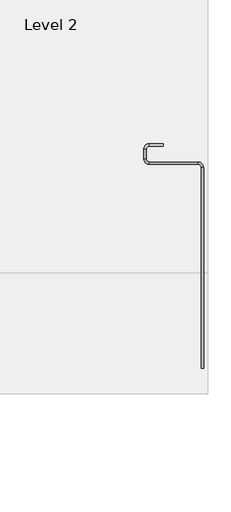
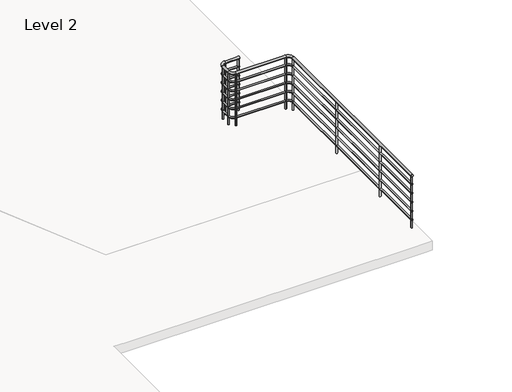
# One storey, part 4 of 14: 1 railing.
"""IFC4 building model written with IfcOpenShell, lengths in millimetres."""

from ifc_helpers import new_model, si_unit, point, frame, frame_2d, origin, place, context, project, spatial, circle_curve, ellipse_curve, trimmed, segment, composite_curve, outline, extrude, element, save
from ifc_brep_helpers import plane_surface, cylinder_surface, revolved_surface, advanced_brep

model = new_model("IFC4")

# Units and contexts
model_context = context("Model", 3, world=origin())
ifc_project = project(units=[si_unit("LENGTHUNIT", "METRE", prefix="MILLI")], contexts=[model_context])

# Site, building, storey
site = spatial("IfcSite", under=ifc_project)
building = spatial("IfcBuilding", under=site)
storey = spatial("IfcBuildingStorey", under=building, Name="Level 2", Elevation=3657.6)

# Railing
placement = place(None, origin())
element("IfcRailing", 1, ObjectType="Handrail - Pipe", at=placement, inside=storey, context=model_context, shape_type="SolidModel", body=[
    advanced_brep(
    [(17286.8049721, -5485.5476681, 4552.95), (17286.8049721, -5523.6476681, 4552.95), (17058.2049721, -5485.5476681, 4552.95), (17058.2049721, -5523.6476681, 4552.95), (17001.0549721, -5580.7976681, 4552.95), (16962.9549721, -5580.7976681, 4552.95), (16962.9549721, -5733.1976681, 4552.95), (17001.0549721, -5733.1976681, 4552.95), (17058.2049721, -5790.3476681, 4552.95), (17058.2049721, -5828.4476681, 4552.95), (17861.7339721, -5828.4476681, 4552.95), (17861.7339721, -5790.3476681, 4552.95), (17918.8839721, -9214.5851681, 4552.95), (17956.9839721, -9214.5851681, 4552.95), (17956.9839721, -5885.5976681, 4552.95), (17918.8839721, -5885.5976681, 4552.95)],
    [
        (0, 1, circle_curve(frame((17286.8049721, -5504.5976681, 4552.95), z_axis=(1.0, 0.0, 0.0), x_axis=(0.0, -1.0, 0.0)), 19.05)),
        (1, 0, circle_curve(frame((17286.8049721, -5504.5976681, 4552.95), z_axis=(1.0, 0.0, 0.0), x_axis=(0.0, -1.0, 0.0)), 19.05)),
        (0, 2),
        (2, 3, circle_curve(frame((17058.2049721, -5504.5976681, 4552.95), z_axis=(1.0, 0.0, 0.0), x_axis=(0.0, -1.0, 0.0)), 19.05)),
        (3, 1),
        (3, 2, circle_curve(frame((17058.2049721, -5504.5976681, 4552.95), z_axis=(1.0, 0.0, 0.0), x_axis=(0.0, -1.0, 0.0)), 19.05)),
        (4, 5, circle_curve(frame((16982.0049721, -5580.7976681, 4552.95), z_axis=(0.0, -1.0, 0.0), x_axis=(1.0, 0.0, 0.0)), 19.05)),
        (5, 6),
        (6, 7, circle_curve(frame((16982.0049721, -5733.1976681, 4552.95), z_axis=(0.0, 1.0, 0.0), x_axis=(1.0, 0.0, 0.0)), 19.05)),
        (7, 4),
        (5, 4, circle_curve(frame((16982.0049721, -5580.7976681, 4552.95), z_axis=(0.0, -1.0, 0.0), x_axis=(1.0, 0.0, 0.0)), 19.05)),
        (7, 6, circle_curve(frame((16982.0049721, -5733.1976681, 4552.95), z_axis=(0.0, 1.0, 0.0), x_axis=(1.0, 0.0, 0.0)), 19.05)),
        (8, 9, circle_curve(frame((17058.2049721, -5809.3976681, 4552.95), z_axis=(1.0, 0.0, 0.0), x_axis=(0.0, 1.0, 0.0)), 19.05)),
        (9, 10),
        (10, 11, circle_curve(frame((17861.7339721, -5809.3976681, 4552.95), z_axis=(-1.0, 0.0, 0.0), x_axis=(0.0, 1.0, 0.0)), 19.05)),
        (11, 8),
        (9, 8, circle_curve(frame((17058.2049721, -5809.3976681, 4552.95), z_axis=(1.0, 0.0, 0.0), x_axis=(0.0, 1.0, 0.0)), 19.05)),
        (11, 10, circle_curve(frame((17861.7339721, -5809.3976681, 4552.95), z_axis=(-1.0, 0.0, 0.0), x_axis=(0.0, 1.0, 0.0)), 19.05)),
        (12, 13, circle_curve(frame((17937.9339721, -9214.5851681, 4552.95), z_axis=(0.0, -1.0, 0.0), x_axis=(1.0, 0.0, 0.0)), 19.05)),
        (13, 12, circle_curve(frame((17937.9339721, -9214.5851681, 4552.95), z_axis=(0.0, -1.0, 0.0), x_axis=(1.0, 0.0, 0.0)), 19.05)),
        (14, 15, circle_curve(frame((17937.9339721, -5885.5976681, 4552.95), z_axis=(0.0, -1.0, 0.0), x_axis=(1.0, 0.0, 0.0)), 19.05)),
        (15, 12),
        (13, 14),
        (15, 14, circle_curve(frame((17937.9339721, -5885.5976681, 4552.95), z_axis=(0.0, -1.0, 0.0), x_axis=(1.0, 0.0, 0.0)), 19.05)),
        (4, 3, circle_curve(frame((17058.2049721, -5580.7976681, 4552.95), z_axis=(0.0, 0.0, -1.0), x_axis=(0.0, 1.0, 0.0)), 57.15)),
        (2, 5, circle_curve(frame((17058.2049721, -5580.7976681, 4552.95), z_axis=(0.0, 0.0, 1.0), x_axis=(0.0, 1.0, 0.0)), 95.25)),
        (8, 7, circle_curve(frame((17058.2049721, -5733.1976681, 4552.95), z_axis=(0.0, 0.0, -1.0), x_axis=(-1.0, 0.0, 0.0)), 57.15)),
        (6, 9, circle_curve(frame((17058.2049721, -5733.1976681, 4552.95), z_axis=(0.0, 0.0, 1.0), x_axis=(-1.0, 0.0, 0.0)), 95.25)),
        (14, 11, circle_curve(frame((17861.7339721, -5885.5976681, 4552.95), z_axis=(0.0, 0.0, 1.0), x_axis=(0.0, 1.0, 0.0)), 95.25)),
        (10, 15, circle_curve(frame((17861.7339721, -5885.5976681, 4552.95), z_axis=(0.0, 0.0, -1.0), x_axis=(0.0, 1.0, 0.0)), 57.15)),
    ],
    [
        plane_surface(frame((17286.8049721, -5504.5976681, 4572.0), z_axis=(1.0, 0.0, 0.0), x_axis=(0.0, -1.0, 0.0))),
        cylinder_surface(frame((17286.8049721, -5504.5976681, 4552.95), z_axis=(1.0, 0.0, 0.0), x_axis=(0.0, -1.0, 0.0)), 19.05),
        cylinder_surface(frame((16982.0049721, -5580.7976681, 4552.95), z_axis=(0.0, 1.0, 0.0), x_axis=(1.0, 0.0, 0.0)), 19.05),
        cylinder_surface(frame((17058.2049721, -5809.3976681, 4552.95), z_axis=(-1.0, 0.0, 0.0), x_axis=(0.0, 1.0, 0.0)), 19.05),
        plane_surface(frame((17937.9339721, -9214.5851681, 4572.0), z_axis=(0.0, -1.0, 0.0), x_axis=(0.0, 0.0, -1.0))),
        cylinder_surface(frame((17937.9339721, -5885.5976681, 4552.95), z_axis=(0.0, 1.0, 0.0), x_axis=(1.0, 0.0, 0.0)), 19.05),
        revolved_surface(trimmed(ellipse_curve(frame((17058.2049721, -5504.5976681, 4552.95), z_axis=(1.0, 0.0, 0.0), x_axis=(0.0, -1.0, 0.0)), 19.05, 19.05), [point((17058.2049721, -5485.5476681, 4552.95))], [point((17058.2049721, -5523.6476681, 4552.95))], True, "CARTESIAN"), (17058.2049721, -5580.7976681, 4572.0), (0.0, 0.0, 1.0)),
        revolved_surface(trimmed(ellipse_curve(frame((17058.2049721, -5504.5976681, 4552.95), z_axis=(1.0, 0.0, 0.0), x_axis=(0.0, -1.0, 0.0)), 19.05, 19.05), [point((17058.2049721, -5523.6476681, 4552.95))], [point((17058.2049721, -5485.5476681, 4552.95))], True, "CARTESIAN"), (17058.2049721, -5580.7976681, 4572.0), (0.0, 0.0, 1.0)),
        revolved_surface(trimmed(ellipse_curve(frame((16982.0049721, -5733.1976681, 4552.95), z_axis=(0.0, 1.0, 0.0), x_axis=(1.0, 0.0, 0.0)), 19.05, 19.05), [point((16962.9549721, -5733.1976681, 4552.95))], [point((17001.0549721, -5733.1976681, 4552.95))], True, "CARTESIAN"), (17058.2049721, -5733.1976681, 4572.0), (0.0, 0.0, 1.0)),
        revolved_surface(trimmed(ellipse_curve(frame((16982.0049721, -5733.1976681, 4552.95), z_axis=(0.0, 1.0, 0.0), x_axis=(1.0, 0.0, 0.0)), 19.05, 19.05), [point((17001.0549721, -5733.1976681, 4552.95))], [point((16962.9549721, -5733.1976681, 4552.95))], True, "CARTESIAN"), (17058.2049721, -5733.1976681, 4572.0), (0.0, 0.0, 1.0)),
        revolved_surface(trimmed(ellipse_curve(frame((17861.7339721, -5809.3976681, 4552.95), z_axis=(-1.0, 0.0, 0.0), x_axis=(0.0, 1.0, 0.0)), 19.05, 19.05), [point((17861.7339721, -5828.4476681, 4552.95))], [point((17861.7339721, -5790.3476681, 4552.95))], True, "CARTESIAN"), (17861.7339721, -5885.5976681, 4572.0), (0.0, 0.0, -1.0)),
        revolved_surface(trimmed(ellipse_curve(frame((17861.7339721, -5809.3976681, 4552.95), z_axis=(-1.0, 0.0, 0.0), x_axis=(0.0, 1.0, 0.0)), 19.05, 19.05), [point((17861.7339721, -5790.3476681, 4552.95))], [point((17861.7339721, -5828.4476681, 4552.95))], True, "CARTESIAN"), (17861.7339721, -5885.5976681, 4572.0), (0.0, 0.0, -1.0)),
    ],
    [
        (0, [[1, 2]]),
        (1, [[-1, 3, 4, 5]]),
        (1, [[-2, -5, 6, -3]]),
        (2, [[7, 8, 9, 10]]),
        (2, [[11, -10, 12, -8]]),
        (3, [[13, 14, 15, 16]]),
        (3, [[17, -16, 18, -14]]),
        (4, [[19, 20]]),
        (5, [[21, 22, -20, 23]]),
        (5, [[24, -23, -19, -22]]),
        (6, [[25, -4, 26, -7]]),
        (7, [[-26, -6, -25, -11]]),
        (8, [[27, -9, 28, -13]]),
        (9, [[-28, -12, -27, -17]]),
        (10, [[29, -15, 30, -21]]),
        (11, [[-30, -18, -29, -24]]),
    ],
),
    advanced_brep(
    [(17286.8049721, -5517.2976681, 4406.9), (17286.8049721, -5491.8976681, 4406.9), (17058.2049721, -5517.2976681, 4406.9), (17058.2049721, -5491.8976681, 4406.9), (16969.3049721, -5580.7976681, 4406.9), (16994.7049721, -5580.7976681, 4406.9), (16994.7049721, -5733.1976681, 4406.9), (16969.3049721, -5733.1976681, 4406.9), (17058.2049721, -5822.0976681, 4406.9), (17058.2049721, -5796.6976681, 4406.9), (17861.7339721, -5796.6976681, 4406.9), (17861.7339721, -5822.0976681, 4406.9), (17950.6339721, -9214.5851681, 4406.9), (17925.2339721, -9214.5851681, 4406.9), (17925.2339721, -5885.5976681, 4406.9), (17950.6339721, -5885.5976681, 4406.9)],
    [
        (0, 1, circle_curve(frame((17286.8049721, -5504.5976681, 4406.9), z_axis=(1.0, 0.0, 0.0), x_axis=(0.0, 1.0, 0.0)), 12.7)),
        (1, 0, circle_curve(frame((17286.8049721, -5504.5976681, 4406.9), z_axis=(1.0, 0.0, 0.0), x_axis=(0.0, 1.0, 0.0)), 12.7)),
        (0, 2),
        (2, 3, circle_curve(frame((17058.2049721, -5504.5976681, 4406.9), z_axis=(1.0, 0.0, 0.0), x_axis=(0.0, 1.0, 0.0)), 12.7)),
        (3, 1),
        (3, 2, circle_curve(frame((17058.2049721, -5504.5976681, 4406.9), z_axis=(1.0, 0.0, 0.0), x_axis=(0.0, 1.0, 0.0)), 12.7)),
        (4, 5, circle_curve(frame((16982.0049721, -5580.7976681, 4406.9), z_axis=(0.0, -1.0, 0.0), x_axis=(-1.0, 0.0, 0.0)), 12.7)),
        (5, 6),
        (6, 7, circle_curve(frame((16982.0049721, -5733.1976681, 4406.9), z_axis=(0.0, 1.0, 0.0), x_axis=(-1.0, 0.0, 0.0)), 12.7)),
        (7, 4),
        (5, 4, circle_curve(frame((16982.0049721, -5580.7976681, 4406.9), z_axis=(0.0, -1.0, 0.0), x_axis=(-1.0, 0.0, 0.0)), 12.7)),
        (7, 6, circle_curve(frame((16982.0049721, -5733.1976681, 4406.9), z_axis=(0.0, 1.0, 0.0), x_axis=(-1.0, 0.0, 0.0)), 12.7)),
        (8, 9, circle_curve(frame((17058.2049721, -5809.3976681, 4406.9), z_axis=(1.0, 0.0, 0.0), x_axis=(0.0, -1.0, 0.0)), 12.7)),
        (9, 10),
        (10, 11, circle_curve(frame((17861.7339721, -5809.3976681, 4406.9), z_axis=(-1.0, 0.0, 0.0), x_axis=(0.0, -1.0, 0.0)), 12.7)),
        (11, 8),
        (9, 8, circle_curve(frame((17058.2049721, -5809.3976681, 4406.9), z_axis=(1.0, 0.0, 0.0), x_axis=(0.0, -1.0, 0.0)), 12.7)),
        (11, 10, circle_curve(frame((17861.7339721, -5809.3976681, 4406.9), z_axis=(-1.0, 0.0, 0.0), x_axis=(0.0, -1.0, 0.0)), 12.7)),
        (12, 13, circle_curve(frame((17937.9339721, -9214.5851681, 4406.9), z_axis=(0.0, -1.0, 0.0), x_axis=(-1.0, 0.0, 0.0)), 12.7)),
        (13, 12, circle_curve(frame((17937.9339721, -9214.5851681, 4406.9), z_axis=(0.0, -1.0, 0.0), x_axis=(-1.0, 0.0, 0.0)), 12.7)),
        (14, 15, circle_curve(frame((17937.9339721, -5885.5976681, 4406.9), z_axis=(0.0, -1.0, 0.0), x_axis=(-1.0, 0.0, 0.0)), 12.7)),
        (15, 12),
        (13, 14),
        (15, 14, circle_curve(frame((17937.9339721, -5885.5976681, 4406.9), z_axis=(0.0, -1.0, 0.0), x_axis=(-1.0, 0.0, 0.0)), 12.7)),
        (4, 3, circle_curve(frame((17058.2049721, -5580.7976681, 4406.9), z_axis=(0.0, 0.0, -1.0), x_axis=(0.0, 1.0, 0.0)), 88.9)),
        (2, 5, circle_curve(frame((17058.2049721, -5580.7976681, 4406.9), z_axis=(0.0, 0.0, 1.0), x_axis=(0.0, 1.0, 0.0)), 63.5)),
        (8, 7, circle_curve(frame((17058.2049721, -5733.1976681, 4406.9), z_axis=(0.0, 0.0, -1.0), x_axis=(-1.0, 0.0, 0.0)), 88.9)),
        (6, 9, circle_curve(frame((17058.2049721, -5733.1976681, 4406.9), z_axis=(0.0, 0.0, 1.0), x_axis=(-1.0, 0.0, 0.0)), 63.5)),
        (14, 11, circle_curve(frame((17861.7339721, -5885.5976681, 4406.9), z_axis=(0.0, 0.0, 1.0), x_axis=(0.0, 1.0, 0.0)), 63.5)),
        (10, 15, circle_curve(frame((17861.7339721, -5885.5976681, 4406.9), z_axis=(0.0, 0.0, -1.0), x_axis=(0.0, 1.0, 0.0)), 88.9)),
    ],
    [
        plane_surface(frame((17286.8049721, -5504.5976681, 4419.6), z_axis=(1.0, 0.0, 0.0), x_axis=(0.0, -1.0, 0.0))),
        cylinder_surface(frame((17286.8049721, -5504.5976681, 4406.9), z_axis=(1.0, 0.0, 0.0), x_axis=(0.0, 1.0, 0.0)), 12.7),
        cylinder_surface(frame((16982.0049721, -5580.7976681, 4406.9), z_axis=(0.0, 1.0, 0.0), x_axis=(-1.0, 0.0, 0.0)), 12.7),
        cylinder_surface(frame((17058.2049721, -5809.3976681, 4406.9), z_axis=(-1.0, 0.0, 0.0), x_axis=(0.0, -1.0, 0.0)), 12.7),
        plane_surface(frame((17937.9339721, -9214.5851681, 4419.6), z_axis=(0.0, -1.0, 0.0), x_axis=(0.0, 0.0, -1.0))),
        cylinder_surface(frame((17937.9339721, -5885.5976681, 4406.9), z_axis=(0.0, 1.0, 0.0), x_axis=(-1.0, 0.0, 0.0)), 12.7),
        revolved_surface(trimmed(ellipse_curve(frame((17058.2049721, -5504.5976681, 4406.9), z_axis=(1.0, 0.0, 0.0), x_axis=(0.0, 1.0, 0.0)), 12.7, 12.7), [point((17058.2049721, -5517.2976681, 4406.9))], [point((17058.2049721, -5491.8976681, 4406.9))], True, "CARTESIAN"), (17058.2049721, -5580.7976681, 4419.6), (0.0, 0.0, 1.0)),
        revolved_surface(trimmed(ellipse_curve(frame((17058.2049721, -5504.5976681, 4406.9), z_axis=(1.0, 0.0, 0.0), x_axis=(0.0, 1.0, 0.0)), 12.7, 12.7), [point((17058.2049721, -5491.8976681, 4406.9))], [point((17058.2049721, -5517.2976681, 4406.9))], True, "CARTESIAN"), (17058.2049721, -5580.7976681, 4419.6), (0.0, 0.0, 1.0)),
        revolved_surface(trimmed(ellipse_curve(frame((16982.0049721, -5733.1976681, 4406.9), z_axis=(0.0, 1.0, 0.0), x_axis=(-1.0, 0.0, 0.0)), 12.7, 12.7), [point((16994.7049721, -5733.1976681, 4406.9))], [point((16969.3049721, -5733.1976681, 4406.9))], True, "CARTESIAN"), (17058.2049721, -5733.1976681, 4419.6), (0.0, 0.0, 1.0)),
        revolved_surface(trimmed(ellipse_curve(frame((16982.0049721, -5733.1976681, 4406.9), z_axis=(0.0, 1.0, 0.0), x_axis=(-1.0, 0.0, 0.0)), 12.7, 12.7), [point((16969.3049721, -5733.1976681, 4406.9))], [point((16994.7049721, -5733.1976681, 4406.9))], True, "CARTESIAN"), (17058.2049721, -5733.1976681, 4419.6), (0.0, 0.0, 1.0)),
        revolved_surface(trimmed(ellipse_curve(frame((17861.7339721, -5809.3976681, 4406.9), z_axis=(-1.0, 0.0, 0.0), x_axis=(0.0, -1.0, 0.0)), 12.7, 12.7), [point((17861.7339721, -5796.6976681, 4406.9))], [point((17861.7339721, -5822.0976681, 4406.9))], True, "CARTESIAN"), (17861.7339721, -5885.5976681, 4419.6), (0.0, 0.0, -1.0)),
        revolved_surface(trimmed(ellipse_curve(frame((17861.7339721, -5809.3976681, 4406.9), z_axis=(-1.0, 0.0, 0.0), x_axis=(0.0, -1.0, 0.0)), 12.7, 12.7), [point((17861.7339721, -5822.0976681, 4406.9))], [point((17861.7339721, -5796.6976681, 4406.9))], True, "CARTESIAN"), (17861.7339721, -5885.5976681, 4419.6), (0.0, 0.0, -1.0)),
    ],
    [
        (0, [[1, 2]]),
        (1, [[-1, 3, 4, 5]]),
        (1, [[-2, -5, 6, -3]]),
        (2, [[7, 8, 9, 10]]),
        (2, [[11, -10, 12, -8]]),
        (3, [[13, 14, 15, 16]]),
        (3, [[17, -16, 18, -14]]),
        (4, [[19, 20]]),
        (5, [[21, 22, -20, 23]]),
        (5, [[24, -23, -19, -22]]),
        (6, [[25, -4, 26, -7]]),
        (7, [[-26, -6, -25, -11]]),
        (8, [[27, -9, 28, -13]]),
        (9, [[-28, -12, -27, -17]]),
        (10, [[29, -15, 30, -21]]),
        (11, [[-30, -18, -29, -24]]),
    ],
),
    advanced_brep(
    [(17286.8049721, -5517.2976681, 4254.5), (17286.8049721, -5491.8976681, 4254.5), (17058.2049721, -5517.2976681, 4254.5), (17058.2049721, -5491.8976681, 4254.5), (16969.3049721, -5580.7976681, 4254.5), (16994.7049721, -5580.7976681, 4254.5), (16994.7049721, -5733.1976681, 4254.5), (16969.3049721, -5733.1976681, 4254.5), (17058.2049721, -5822.0976681, 4254.5), (17058.2049721, -5796.6976681, 4254.5), (17861.7339721, -5796.6976681, 4254.5), (17861.7339721, -5822.0976681, 4254.5), (17950.6339721, -9214.5851681, 4254.5), (17925.2339721, -9214.5851681, 4254.5), (17925.2339721, -5885.5976681, 4254.5), (17950.6339721, -5885.5976681, 4254.5)],
    [
        (0, 1, circle_curve(frame((17286.8049721, -5504.5976681, 4254.5), z_axis=(1.0, 0.0, 0.0), x_axis=(0.0, 1.0, 0.0)), 12.7)),
        (1, 0, circle_curve(frame((17286.8049721, -5504.5976681, 4254.5), z_axis=(1.0, 0.0, 0.0), x_axis=(0.0, 1.0, 0.0)), 12.7)),
        (0, 2),
        (2, 3, circle_curve(frame((17058.2049721, -5504.5976681, 4254.5), z_axis=(1.0, 0.0, 0.0), x_axis=(0.0, 1.0, 0.0)), 12.7)),
        (3, 1),
        (3, 2, circle_curve(frame((17058.2049721, -5504.5976681, 4254.5), z_axis=(1.0, 0.0, 0.0), x_axis=(0.0, 1.0, 0.0)), 12.7)),
        (4, 5, circle_curve(frame((16982.0049721, -5580.7976681, 4254.5), z_axis=(0.0, -1.0, 0.0), x_axis=(-1.0, 0.0, 0.0)), 12.7)),
        (5, 6),
        (6, 7, circle_curve(frame((16982.0049721, -5733.1976681, 4254.5), z_axis=(0.0, 1.0, 0.0), x_axis=(-1.0, 0.0, 0.0)), 12.7)),
        (7, 4),
        (5, 4, circle_curve(frame((16982.0049721, -5580.7976681, 4254.5), z_axis=(0.0, -1.0, 0.0), x_axis=(-1.0, 0.0, 0.0)), 12.7)),
        (7, 6, circle_curve(frame((16982.0049721, -5733.1976681, 4254.5), z_axis=(0.0, 1.0, 0.0), x_axis=(-1.0, 0.0, 0.0)), 12.7)),
        (8, 9, circle_curve(frame((17058.2049721, -5809.3976681, 4254.5), z_axis=(1.0, 0.0, 0.0), x_axis=(0.0, -1.0, 0.0)), 12.7)),
        (9, 10),
        (10, 11, circle_curve(frame((17861.7339721, -5809.3976681, 4254.5), z_axis=(-1.0, 0.0, 0.0), x_axis=(0.0, -1.0, 0.0)), 12.7)),
        (11, 8),
        (9, 8, circle_curve(frame((17058.2049721, -5809.3976681, 4254.5), z_axis=(1.0, 0.0, 0.0), x_axis=(0.0, -1.0, 0.0)), 12.7)),
        (11, 10, circle_curve(frame((17861.7339721, -5809.3976681, 4254.5), z_axis=(-1.0, 0.0, 0.0), x_axis=(0.0, -1.0, 0.0)), 12.7)),
        (12, 13, circle_curve(frame((17937.9339721, -9214.5851681, 4254.5), z_axis=(0.0, -1.0, 0.0), x_axis=(-1.0, 0.0, 0.0)), 12.7)),
        (13, 12, circle_curve(frame((17937.9339721, -9214.5851681, 4254.5), z_axis=(0.0, -1.0, 0.0), x_axis=(-1.0, 0.0, 0.0)), 12.7)),
        (14, 15, circle_curve(frame((17937.9339721, -5885.5976681, 4254.5), z_axis=(0.0, -1.0, 0.0), x_axis=(-1.0, 0.0, 0.0)), 12.7)),
        (15, 12),
        (13, 14),
        (15, 14, circle_curve(frame((17937.9339721, -5885.5976681, 4254.5), z_axis=(0.0, -1.0, 0.0), x_axis=(-1.0, 0.0, 0.0)), 12.7)),
        (4, 3, circle_curve(frame((17058.2049721, -5580.7976681, 4254.5), z_axis=(0.0, 0.0, -1.0), x_axis=(0.0, 1.0, 0.0)), 88.9)),
        (2, 5, circle_curve(frame((17058.2049721, -5580.7976681, 4254.5), z_axis=(0.0, 0.0, 1.0), x_axis=(0.0, 1.0, 0.0)), 63.5)),
        (8, 7, circle_curve(frame((17058.2049721, -5733.1976681, 4254.5), z_axis=(0.0, 0.0, -1.0), x_axis=(-1.0, 0.0, 0.0)), 88.9)),
        (6, 9, circle_curve(frame((17058.2049721, -5733.1976681, 4254.5), z_axis=(0.0, 0.0, 1.0), x_axis=(-1.0, 0.0, 0.0)), 63.5)),
        (14, 11, circle_curve(frame((17861.7339721, -5885.5976681, 4254.5), z_axis=(0.0, 0.0, 1.0), x_axis=(0.0, 1.0, 0.0)), 63.5)),
        (10, 15, circle_curve(frame((17861.7339721, -5885.5976681, 4254.5), z_axis=(0.0, 0.0, -1.0), x_axis=(0.0, 1.0, 0.0)), 88.9)),
    ],
    [
        plane_surface(frame((17286.8049721, -5504.5976681, 4267.2), z_axis=(1.0, 0.0, 0.0), x_axis=(0.0, -1.0, 0.0))),
        cylinder_surface(frame((17286.8049721, -5504.5976681, 4254.5), z_axis=(1.0, 0.0, 0.0), x_axis=(0.0, 1.0, 0.0)), 12.7),
        cylinder_surface(frame((16982.0049721, -5580.7976681, 4254.5), z_axis=(0.0, 1.0, 0.0), x_axis=(-1.0, 0.0, 0.0)), 12.7),
        cylinder_surface(frame((17058.2049721, -5809.3976681, 4254.5), z_axis=(-1.0, 0.0, 0.0), x_axis=(0.0, -1.0, 0.0)), 12.7),
        plane_surface(frame((17937.9339721, -9214.5851681, 4267.2), z_axis=(0.0, -1.0, 0.0), x_axis=(0.0, 0.0, -1.0))),
        cylinder_surface(frame((17937.9339721, -5885.5976681, 4254.5), z_axis=(0.0, 1.0, 0.0), x_axis=(-1.0, 0.0, 0.0)), 12.7),
        revolved_surface(trimmed(ellipse_curve(frame((17058.2049721, -5504.5976681, 4254.5), z_axis=(1.0, 0.0, 0.0), x_axis=(0.0, 1.0, 0.0)), 12.7, 12.7), [point((17058.2049721, -5517.2976681, 4254.5))], [point((17058.2049721, -5491.8976681, 4254.5))], True, "CARTESIAN"), (17058.2049721, -5580.7976681, 4267.2), (0.0, 0.0, 1.0)),
        revolved_surface(trimmed(ellipse_curve(frame((17058.2049721, -5504.5976681, 4254.5), z_axis=(1.0, 0.0, 0.0), x_axis=(0.0, 1.0, 0.0)), 12.7, 12.7), [point((17058.2049721, -5491.8976681, 4254.5))], [point((17058.2049721, -5517.2976681, 4254.5))], True, "CARTESIAN"), (17058.2049721, -5580.7976681, 4267.2), (0.0, 0.0, 1.0)),
        revolved_surface(trimmed(ellipse_curve(frame((16982.0049721, -5733.1976681, 4254.5), z_axis=(0.0, 1.0, 0.0), x_axis=(-1.0, 0.0, 0.0)), 12.7, 12.7), [point((16994.7049721, -5733.1976681, 4254.5))], [point((16969.3049721, -5733.1976681, 4254.5))], True, "CARTESIAN"), (17058.2049721, -5733.1976681, 4267.2), (0.0, 0.0, 1.0)),
        revolved_surface(trimmed(ellipse_curve(frame((16982.0049721, -5733.1976681, 4254.5), z_axis=(0.0, 1.0, 0.0), x_axis=(-1.0, 0.0, 0.0)), 12.7, 12.7), [point((16969.3049721, -5733.1976681, 4254.5))], [point((16994.7049721, -5733.1976681, 4254.5))], True, "CARTESIAN"), (17058.2049721, -5733.1976681, 4267.2), (0.0, 0.0, 1.0)),
        revolved_surface(trimmed(ellipse_curve(frame((17861.7339721, -5809.3976681, 4254.5), z_axis=(-1.0, 0.0, 0.0), x_axis=(0.0, -1.0, 0.0)), 12.7, 12.7), [point((17861.7339721, -5796.6976681, 4254.5))], [point((17861.7339721, -5822.0976681, 4254.5))], True, "CARTESIAN"), (17861.7339721, -5885.5976681, 4267.2), (0.0, 0.0, -1.0)),
        revolved_surface(trimmed(ellipse_curve(frame((17861.7339721, -5809.3976681, 4254.5), z_axis=(-1.0, 0.0, 0.0), x_axis=(0.0, -1.0, 0.0)), 12.7, 12.7), [point((17861.7339721, -5822.0976681, 4254.5))], [point((17861.7339721, -5796.6976681, 4254.5))], True, "CARTESIAN"), (17861.7339721, -5885.5976681, 4267.2), (0.0, 0.0, -1.0)),
    ],
    [
        (0, [[1, 2]]),
        (1, [[-1, 3, 4, 5]]),
        (1, [[-2, -5, 6, -3]]),
        (2, [[7, 8, 9, 10]]),
        (2, [[11, -10, 12, -8]]),
        (3, [[13, 14, 15, 16]]),
        (3, [[17, -16, 18, -14]]),
        (4, [[19, 20]]),
        (5, [[21, 22, -20, 23]]),
        (5, [[24, -23, -19, -22]]),
        (6, [[25, -4, 26, -7]]),
        (7, [[-26, -6, -25, -11]]),
        (8, [[27, -9, 28, -13]]),
        (9, [[-28, -12, -27, -17]]),
        (10, [[29, -15, 30, -21]]),
        (11, [[-30, -18, -29, -24]]),
    ],
),
    advanced_brep(
    [(17286.8049721, -5517.2976681, 4102.1), (17286.8049721, -5491.8976681, 4102.1), (17058.2049721, -5517.2976681, 4102.1), (17058.2049721, -5491.8976681, 4102.1), (16969.3049721, -5580.7976681, 4102.1), (16994.7049721, -5580.7976681, 4102.1), (16994.7049721, -5733.1976681, 4102.1), (16969.3049721, -5733.1976681, 4102.1), (17058.2049721, -5822.0976681, 4102.1), (17058.2049721, -5796.6976681, 4102.1), (17861.7339721, -5796.6976681, 4102.1), (17861.7339721, -5822.0976681, 4102.1), (17950.6339721, -9214.5851681, 4102.1), (17925.2339721, -9214.5851681, 4102.1), (17925.2339721, -5885.5976681, 4102.1), (17950.6339721, -5885.5976681, 4102.1)],
    [
        (0, 1, circle_curve(frame((17286.8049721, -5504.5976681, 4102.1), z_axis=(1.0, 0.0, 0.0), x_axis=(0.0, 1.0, 0.0)), 12.7)),
        (1, 0, circle_curve(frame((17286.8049721, -5504.5976681, 4102.1), z_axis=(1.0, 0.0, 0.0), x_axis=(0.0, 1.0, 0.0)), 12.7)),
        (0, 2),
        (2, 3, circle_curve(frame((17058.2049721, -5504.5976681, 4102.1), z_axis=(1.0, 0.0, 0.0), x_axis=(0.0, 1.0, 0.0)), 12.7)),
        (3, 1),
        (3, 2, circle_curve(frame((17058.2049721, -5504.5976681, 4102.1), z_axis=(1.0, 0.0, 0.0), x_axis=(0.0, 1.0, 0.0)), 12.7)),
        (4, 5, circle_curve(frame((16982.0049721, -5580.7976681, 4102.1), z_axis=(0.0, -1.0, 0.0), x_axis=(-1.0, 0.0, 0.0)), 12.7)),
        (5, 6),
        (6, 7, circle_curve(frame((16982.0049721, -5733.1976681, 4102.1), z_axis=(0.0, 1.0, 0.0), x_axis=(-1.0, 0.0, 0.0)), 12.7)),
        (7, 4),
        (5, 4, circle_curve(frame((16982.0049721, -5580.7976681, 4102.1), z_axis=(0.0, -1.0, 0.0), x_axis=(-1.0, 0.0, 0.0)), 12.7)),
        (7, 6, circle_curve(frame((16982.0049721, -5733.1976681, 4102.1), z_axis=(0.0, 1.0, 0.0), x_axis=(-1.0, 0.0, 0.0)), 12.7)),
        (8, 9, circle_curve(frame((17058.2049721, -5809.3976681, 4102.1), z_axis=(1.0, 0.0, 0.0), x_axis=(0.0, -1.0, 0.0)), 12.7)),
        (9, 10),
        (10, 11, circle_curve(frame((17861.7339721, -5809.3976681, 4102.1), z_axis=(-1.0, 0.0, 0.0), x_axis=(0.0, -1.0, 0.0)), 12.7)),
        (11, 8),
        (9, 8, circle_curve(frame((17058.2049721, -5809.3976681, 4102.1), z_axis=(1.0, 0.0, 0.0), x_axis=(0.0, -1.0, 0.0)), 12.7)),
        (11, 10, circle_curve(frame((17861.7339721, -5809.3976681, 4102.1), z_axis=(-1.0, 0.0, 0.0), x_axis=(0.0, -1.0, 0.0)), 12.7)),
        (12, 13, circle_curve(frame((17937.9339721, -9214.5851681, 4102.1), z_axis=(0.0, -1.0, 0.0), x_axis=(-1.0, 0.0, 0.0)), 12.7)),
        (13, 12, circle_curve(frame((17937.9339721, -9214.5851681, 4102.1), z_axis=(0.0, -1.0, 0.0), x_axis=(-1.0, 0.0, 0.0)), 12.7)),
        (14, 15, circle_curve(frame((17937.9339721, -5885.5976681, 4102.1), z_axis=(0.0, -1.0, 0.0), x_axis=(-1.0, 0.0, 0.0)), 12.7)),
        (15, 12),
        (13, 14),
        (15, 14, circle_curve(frame((17937.9339721, -5885.5976681, 4102.1), z_axis=(0.0, -1.0, 0.0), x_axis=(-1.0, 0.0, 0.0)), 12.7)),
        (4, 3, circle_curve(frame((17058.2049721, -5580.7976681, 4102.1), z_axis=(0.0, 0.0, -1.0), x_axis=(0.0, 1.0, 0.0)), 88.9)),
        (2, 5, circle_curve(frame((17058.2049721, -5580.7976681, 4102.1), z_axis=(0.0, 0.0, 1.0), x_axis=(0.0, 1.0, 0.0)), 63.5)),
        (8, 7, circle_curve(frame((17058.2049721, -5733.1976681, 4102.1), z_axis=(0.0, 0.0, -1.0), x_axis=(-1.0, 0.0, 0.0)), 88.9)),
        (6, 9, circle_curve(frame((17058.2049721, -5733.1976681, 4102.1), z_axis=(0.0, 0.0, 1.0), x_axis=(-1.0, 0.0, 0.0)), 63.5)),
        (14, 11, circle_curve(frame((17861.7339721, -5885.5976681, 4102.1), z_axis=(0.0, 0.0, 1.0), x_axis=(0.0, 1.0, 0.0)), 63.5)),
        (10, 15, circle_curve(frame((17861.7339721, -5885.5976681, 4102.1), z_axis=(0.0, 0.0, -1.0), x_axis=(0.0, 1.0, 0.0)), 88.9)),
    ],
    [
        plane_surface(frame((17286.8049721, -5504.5976681, 4114.8), z_axis=(1.0, 0.0, 0.0), x_axis=(0.0, -1.0, 0.0))),
        cylinder_surface(frame((17286.8049721, -5504.5976681, 4102.1), z_axis=(1.0, 0.0, 0.0), x_axis=(0.0, 1.0, 0.0)), 12.7),
        cylinder_surface(frame((16982.0049721, -5580.7976681, 4102.1), z_axis=(0.0, 1.0, 0.0), x_axis=(-1.0, 0.0, 0.0)), 12.7),
        cylinder_surface(frame((17058.2049721, -5809.3976681, 4102.1), z_axis=(-1.0, 0.0, 0.0), x_axis=(0.0, -1.0, 0.0)), 12.7),
        plane_surface(frame((17937.9339721, -9214.5851681, 4114.8), z_axis=(0.0, -1.0, 0.0), x_axis=(0.0, 0.0, -1.0))),
        cylinder_surface(frame((17937.9339721, -5885.5976681, 4102.1), z_axis=(0.0, 1.0, 0.0), x_axis=(-1.0, 0.0, 0.0)), 12.7),
        revolved_surface(trimmed(ellipse_curve(frame((17058.2049721, -5504.5976681, 4102.1), z_axis=(1.0, 0.0, 0.0), x_axis=(0.0, 1.0, 0.0)), 12.7, 12.7), [point((17058.2049721, -5517.2976681, 4102.1))], [point((17058.2049721, -5491.8976681, 4102.1))], True, "CARTESIAN"), (17058.2049721, -5580.7976681, 4114.8), (0.0, 0.0, 1.0)),
        revolved_surface(trimmed(ellipse_curve(frame((17058.2049721, -5504.5976681, 4102.1), z_axis=(1.0, 0.0, 0.0), x_axis=(0.0, 1.0, 0.0)), 12.7, 12.7), [point((17058.2049721, -5491.8976681, 4102.1))], [point((17058.2049721, -5517.2976681, 4102.1))], True, "CARTESIAN"), (17058.2049721, -5580.7976681, 4114.8), (0.0, 0.0, 1.0)),
        revolved_surface(trimmed(ellipse_curve(frame((16982.0049721, -5733.1976681, 4102.1), z_axis=(0.0, 1.0, 0.0), x_axis=(-1.0, 0.0, 0.0)), 12.7, 12.7), [point((16994.7049721, -5733.1976681, 4102.1))], [point((16969.3049721, -5733.1976681, 4102.1))], True, "CARTESIAN"), (17058.2049721, -5733.1976681, 4114.8), (0.0, 0.0, 1.0)),
        revolved_surface(trimmed(ellipse_curve(frame((16982.0049721, -5733.1976681, 4102.1), z_axis=(0.0, 1.0, 0.0), x_axis=(-1.0, 0.0, 0.0)), 12.7, 12.7), [point((16969.3049721, -5733.1976681, 4102.1))], [point((16994.7049721, -5733.1976681, 4102.1))], True, "CARTESIAN"), (17058.2049721, -5733.1976681, 4114.8), (0.0, 0.0, 1.0)),
        revolved_surface(trimmed(ellipse_curve(frame((17861.7339721, -5809.3976681, 4102.1), z_axis=(-1.0, 0.0, 0.0), x_axis=(0.0, -1.0, 0.0)), 12.7, 12.7), [point((17861.7339721, -5796.6976681, 4102.1))], [point((17861.7339721, -5822.0976681, 4102.1))], True, "CARTESIAN"), (17861.7339721, -5885.5976681, 4114.8), (0.0, 0.0, -1.0)),
        revolved_surface(trimmed(ellipse_curve(frame((17861.7339721, -5809.3976681, 4102.1), z_axis=(-1.0, 0.0, 0.0), x_axis=(0.0, -1.0, 0.0)), 12.7, 12.7), [point((17861.7339721, -5822.0976681, 4102.1))], [point((17861.7339721, -5796.6976681, 4102.1))], True, "CARTESIAN"), (17861.7339721, -5885.5976681, 4114.8), (0.0, 0.0, -1.0)),
    ],
    [
        (0, [[1, 2]]),
        (1, [[-1, 3, 4, 5]]),
        (1, [[-2, -5, 6, -3]]),
        (2, [[7, 8, 9, 10]]),
        (2, [[11, -10, 12, -8]]),
        (3, [[13, 14, 15, 16]]),
        (3, [[17, -16, 18, -14]]),
        (4, [[19, 20]]),
        (5, [[21, 22, -20, 23]]),
        (5, [[24, -23, -19, -22]]),
        (6, [[25, -4, 26, -7]]),
        (7, [[-26, -6, -25, -11]]),
        (8, [[27, -9, 28, -13]]),
        (9, [[-28, -12, -27, -17]]),
        (10, [[29, -15, 30, -21]]),
        (11, [[-30, -18, -29, -24]]),
    ],
),
    advanced_brep(
    [(17286.8049721, -5517.2976681, 3949.7), (17286.8049721, -5491.8976681, 3949.7), (17058.2049721, -5517.2976681, 3949.7), (17058.2049721, -5491.8976681, 3949.7), (16969.3049721, -5580.7976681, 3949.7), (16994.7049721, -5580.7976681, 3949.7), (16994.7049721, -5733.1976681, 3949.7), (16969.3049721, -5733.1976681, 3949.7), (17058.2049721, -5822.0976681, 3949.7), (17058.2049721, -5796.6976681, 3949.7), (17861.7339721, -5796.6976681, 3949.7), (17861.7339721, -5822.0976681, 3949.7), (17950.6339721, -9214.5851681, 3949.7), (17925.2339721, -9214.5851681, 3949.7), (17925.2339721, -5885.5976681, 3949.7), (17950.6339721, -5885.5976681, 3949.7)],
    [
        (0, 1, circle_curve(frame((17286.8049721, -5504.5976681, 3949.7), z_axis=(1.0, 0.0, 0.0), x_axis=(0.0, 1.0, 0.0)), 12.7)),
        (1, 0, circle_curve(frame((17286.8049721, -5504.5976681, 3949.7), z_axis=(1.0, 0.0, 0.0), x_axis=(0.0, 1.0, 0.0)), 12.7)),
        (0, 2),
        (2, 3, circle_curve(frame((17058.2049721, -5504.5976681, 3949.7), z_axis=(1.0, 0.0, 0.0), x_axis=(0.0, 1.0, 0.0)), 12.7)),
        (3, 1),
        (3, 2, circle_curve(frame((17058.2049721, -5504.5976681, 3949.7), z_axis=(1.0, 0.0, 0.0), x_axis=(0.0, 1.0, 0.0)), 12.7)),
        (4, 5, circle_curve(frame((16982.0049721, -5580.7976681, 3949.7), z_axis=(0.0, -1.0, 0.0), x_axis=(-1.0, 0.0, 0.0)), 12.7)),
        (5, 6),
        (6, 7, circle_curve(frame((16982.0049721, -5733.1976681, 3949.7), z_axis=(0.0, 1.0, 0.0), x_axis=(-1.0, 0.0, 0.0)), 12.7)),
        (7, 4),
        (5, 4, circle_curve(frame((16982.0049721, -5580.7976681, 3949.7), z_axis=(0.0, -1.0, 0.0), x_axis=(-1.0, 0.0, 0.0)), 12.7)),
        (7, 6, circle_curve(frame((16982.0049721, -5733.1976681, 3949.7), z_axis=(0.0, 1.0, 0.0), x_axis=(-1.0, 0.0, 0.0)), 12.7)),
        (8, 9, circle_curve(frame((17058.2049721, -5809.3976681, 3949.7), z_axis=(1.0, 0.0, 0.0), x_axis=(0.0, -1.0, 0.0)), 12.7)),
        (9, 10),
        (10, 11, circle_curve(frame((17861.7339721, -5809.3976681, 3949.7), z_axis=(-1.0, 0.0, 0.0), x_axis=(0.0, -1.0, 0.0)), 12.7)),
        (11, 8),
        (9, 8, circle_curve(frame((17058.2049721, -5809.3976681, 3949.7), z_axis=(1.0, 0.0, 0.0), x_axis=(0.0, -1.0, 0.0)), 12.7)),
        (11, 10, circle_curve(frame((17861.7339721, -5809.3976681, 3949.7), z_axis=(-1.0, 0.0, 0.0), x_axis=(0.0, -1.0, 0.0)), 12.7)),
        (12, 13, circle_curve(frame((17937.9339721, -9214.5851681, 3949.7), z_axis=(0.0, -1.0, 0.0), x_axis=(-1.0, 0.0, 0.0)), 12.7)),
        (13, 12, circle_curve(frame((17937.9339721, -9214.5851681, 3949.7), z_axis=(0.0, -1.0, 0.0), x_axis=(-1.0, 0.0, 0.0)), 12.7)),
        (14, 15, circle_curve(frame((17937.9339721, -5885.5976681, 3949.7), z_axis=(0.0, -1.0, 0.0), x_axis=(-1.0, 0.0, 0.0)), 12.7)),
        (15, 12),
        (13, 14),
        (15, 14, circle_curve(frame((17937.9339721, -5885.5976681, 3949.7), z_axis=(0.0, -1.0, 0.0), x_axis=(-1.0, 0.0, 0.0)), 12.7)),
        (4, 3, circle_curve(frame((17058.2049721, -5580.7976681, 3949.7), z_axis=(0.0, 0.0, -1.0), x_axis=(0.0, 1.0, 0.0)), 88.9)),
        (2, 5, circle_curve(frame((17058.2049721, -5580.7976681, 3949.7), z_axis=(0.0, 0.0, 1.0), x_axis=(0.0, 1.0, 0.0)), 63.5)),
        (8, 7, circle_curve(frame((17058.2049721, -5733.1976681, 3949.7), z_axis=(0.0, 0.0, -1.0), x_axis=(-1.0, 0.0, 0.0)), 88.9)),
        (6, 9, circle_curve(frame((17058.2049721, -5733.1976681, 3949.7), z_axis=(0.0, 0.0, 1.0), x_axis=(-1.0, 0.0, 0.0)), 63.5)),
        (14, 11, circle_curve(frame((17861.7339721, -5885.5976681, 3949.7), z_axis=(0.0, 0.0, 1.0), x_axis=(0.0, 1.0, 0.0)), 63.5)),
        (10, 15, circle_curve(frame((17861.7339721, -5885.5976681, 3949.7), z_axis=(0.0, 0.0, -1.0), x_axis=(0.0, 1.0, 0.0)), 88.9)),
    ],
    [
        plane_surface(frame((17286.8049721, -5504.5976681, 3962.4), z_axis=(1.0, 0.0, 0.0), x_axis=(0.0, -1.0, 0.0))),
        cylinder_surface(frame((17286.8049721, -5504.5976681, 3949.7), z_axis=(1.0, 0.0, 0.0), x_axis=(0.0, 1.0, 0.0)), 12.7),
        cylinder_surface(frame((16982.0049721, -5580.7976681, 3949.7), z_axis=(0.0, 1.0, 0.0), x_axis=(-1.0, 0.0, 0.0)), 12.7),
        cylinder_surface(frame((17058.2049721, -5809.3976681, 3949.7), z_axis=(-1.0, 0.0, 0.0), x_axis=(0.0, -1.0, 0.0)), 12.7),
        plane_surface(frame((17937.9339721, -9214.5851681, 3962.4), z_axis=(0.0, -1.0, 0.0), x_axis=(0.0, 0.0, -1.0))),
        cylinder_surface(frame((17937.9339721, -5885.5976681, 3949.7), z_axis=(0.0, 1.0, 0.0), x_axis=(-1.0, 0.0, 0.0)), 12.7),
        revolved_surface(trimmed(ellipse_curve(frame((17058.2049721, -5504.5976681, 3949.7), z_axis=(1.0, 0.0, 0.0), x_axis=(0.0, 1.0, 0.0)), 12.7, 12.7), [point((17058.2049721, -5517.2976681, 3949.7))], [point((17058.2049721, -5491.8976681, 3949.7))], True, "CARTESIAN"), (17058.2049721, -5580.7976681, 3962.4), (0.0, 0.0, 1.0)),
        revolved_surface(trimmed(ellipse_curve(frame((17058.2049721, -5504.5976681, 3949.7), z_axis=(1.0, 0.0, 0.0), x_axis=(0.0, 1.0, 0.0)), 12.7, 12.7), [point((17058.2049721, -5491.8976681, 3949.7))], [point((17058.2049721, -5517.2976681, 3949.7))], True, "CARTESIAN"), (17058.2049721, -5580.7976681, 3962.4), (0.0, 0.0, 1.0)),
        revolved_surface(trimmed(ellipse_curve(frame((16982.0049721, -5733.1976681, 3949.7), z_axis=(0.0, 1.0, 0.0), x_axis=(-1.0, 0.0, 0.0)), 12.7, 12.7), [point((16994.7049721, -5733.1976681, 3949.7))], [point((16969.3049721, -5733.1976681, 3949.7))], True, "CARTESIAN"), (17058.2049721, -5733.1976681, 3962.4), (0.0, 0.0, 1.0)),
        revolved_surface(trimmed(ellipse_curve(frame((16982.0049721, -5733.1976681, 3949.7), z_axis=(0.0, 1.0, 0.0), x_axis=(-1.0, 0.0, 0.0)), 12.7, 12.7), [point((16969.3049721, -5733.1976681, 3949.7))], [point((16994.7049721, -5733.1976681, 3949.7))], True, "CARTESIAN"), (17058.2049721, -5733.1976681, 3962.4), (0.0, 0.0, 1.0)),
        revolved_surface(trimmed(ellipse_curve(frame((17861.7339721, -5809.3976681, 3949.7), z_axis=(-1.0, 0.0, 0.0), x_axis=(0.0, -1.0, 0.0)), 12.7, 12.7), [point((17861.7339721, -5796.6976681, 3949.7))], [point((17861.7339721, -5822.0976681, 3949.7))], True, "CARTESIAN"), (17861.7339721, -5885.5976681, 3962.4), (0.0, 0.0, -1.0)),
        revolved_surface(trimmed(ellipse_curve(frame((17861.7339721, -5809.3976681, 3949.7), z_axis=(-1.0, 0.0, 0.0), x_axis=(0.0, -1.0, 0.0)), 12.7, 12.7), [point((17861.7339721, -5822.0976681, 3949.7))], [point((17861.7339721, -5796.6976681, 3949.7))], True, "CARTESIAN"), (17861.7339721, -5885.5976681, 3962.4), (0.0, 0.0, -1.0)),
    ],
    [
        (0, [[1, 2]]),
        (1, [[-1, 3, 4, 5]]),
        (1, [[-2, -5, 6, -3]]),
        (2, [[7, 8, 9, 10]]),
        (2, [[11, -10, 12, -8]]),
        (3, [[13, 14, 15, 16]]),
        (3, [[17, -16, 18, -14]]),
        (4, [[19, 20]]),
        (5, [[21, 22, -20, 23]]),
        (5, [[24, -23, -19, -22]]),
        (6, [[25, -4, 26, -7]]),
        (7, [[-26, -6, -25, -11]]),
        (8, [[27, -9, 28, -13]]),
        (9, [[-28, -12, -27, -17]]),
        (10, [[29, -15, 30, -21]]),
        (11, [[-30, -18, -29, -24]]),
    ],
),
    advanced_brep(
    [(17286.8049721, -5517.2976681, 3797.3), (17286.8049721, -5491.8976681, 3797.3), (17058.2049721, -5517.2976681, 3797.3), (17058.2049721, -5491.8976681, 3797.3), (16969.3049721, -5580.7976681, 3797.3), (16994.7049721, -5580.7976681, 3797.3), (16994.7049721, -5733.1976681, 3797.3), (16969.3049721, -5733.1976681, 3797.3), (17058.2049721, -5822.0976681, 3797.3), (17058.2049721, -5796.6976681, 3797.3), (17861.7339721, -5796.6976681, 3797.3), (17861.7339721, -5822.0976681, 3797.3), (17950.6339721, -9214.5851681, 3797.3), (17925.2339721, -9214.5851681, 3797.3), (17925.2339721, -5885.5976681, 3797.3), (17950.6339721, -5885.5976681, 3797.3)],
    [
        (0, 1, circle_curve(frame((17286.8049721, -5504.5976681, 3797.3), z_axis=(1.0, 0.0, 0.0), x_axis=(0.0, 1.0, 0.0)), 12.7)),
        (1, 0, circle_curve(frame((17286.8049721, -5504.5976681, 3797.3), z_axis=(1.0, 0.0, 0.0), x_axis=(0.0, 1.0, 0.0)), 12.7)),
        (0, 2),
        (2, 3, circle_curve(frame((17058.2049721, -5504.5976681, 3797.3), z_axis=(1.0, 0.0, 0.0), x_axis=(0.0, 1.0, 0.0)), 12.7)),
        (3, 1),
        (3, 2, circle_curve(frame((17058.2049721, -5504.5976681, 3797.3), z_axis=(1.0, 0.0, 0.0), x_axis=(0.0, 1.0, 0.0)), 12.7)),
        (4, 5, circle_curve(frame((16982.0049721, -5580.7976681, 3797.3), z_axis=(0.0, -1.0, 0.0), x_axis=(-1.0, 0.0, 0.0)), 12.7)),
        (5, 6),
        (6, 7, circle_curve(frame((16982.0049721, -5733.1976681, 3797.3), z_axis=(0.0, 1.0, 0.0), x_axis=(-1.0, 0.0, 0.0)), 12.7)),
        (7, 4),
        (5, 4, circle_curve(frame((16982.0049721, -5580.7976681, 3797.3), z_axis=(0.0, -1.0, 0.0), x_axis=(-1.0, 0.0, 0.0)), 12.7)),
        (7, 6, circle_curve(frame((16982.0049721, -5733.1976681, 3797.3), z_axis=(0.0, 1.0, 0.0), x_axis=(-1.0, 0.0, 0.0)), 12.7)),
        (8, 9, circle_curve(frame((17058.2049721, -5809.3976681, 3797.3), z_axis=(1.0, 0.0, 0.0), x_axis=(0.0, -1.0, 0.0)), 12.7)),
        (9, 10),
        (10, 11, circle_curve(frame((17861.7339721, -5809.3976681, 3797.3), z_axis=(-1.0, 0.0, 0.0), x_axis=(0.0, -1.0, 0.0)), 12.7)),
        (11, 8),
        (9, 8, circle_curve(frame((17058.2049721, -5809.3976681, 3797.3), z_axis=(1.0, 0.0, 0.0), x_axis=(0.0, -1.0, 0.0)), 12.7)),
        (11, 10, circle_curve(frame((17861.7339721, -5809.3976681, 3797.3), z_axis=(-1.0, 0.0, 0.0), x_axis=(0.0, -1.0, 0.0)), 12.7)),
        (12, 13, circle_curve(frame((17937.9339721, -9214.5851681, 3797.3), z_axis=(0.0, -1.0, 0.0), x_axis=(-1.0, 0.0, 0.0)), 12.7)),
        (13, 12, circle_curve(frame((17937.9339721, -9214.5851681, 3797.3), z_axis=(0.0, -1.0, 0.0), x_axis=(-1.0, 0.0, 0.0)), 12.7)),
        (14, 15, circle_curve(frame((17937.9339721, -5885.5976681, 3797.3), z_axis=(0.0, -1.0, 0.0), x_axis=(-1.0, 0.0, 0.0)), 12.7)),
        (15, 12),
        (13, 14),
        (15, 14, circle_curve(frame((17937.9339721, -5885.5976681, 3797.3), z_axis=(0.0, -1.0, 0.0), x_axis=(-1.0, 0.0, 0.0)), 12.7)),
        (4, 3, circle_curve(frame((17058.2049721, -5580.7976681, 3797.3), z_axis=(0.0, 0.0, -1.0), x_axis=(0.0, 1.0, 0.0)), 88.9)),
        (2, 5, circle_curve(frame((17058.2049721, -5580.7976681, 3797.3), z_axis=(0.0, 0.0, 1.0), x_axis=(0.0, 1.0, 0.0)), 63.5)),
        (8, 7, circle_curve(frame((17058.2049721, -5733.1976681, 3797.3), z_axis=(0.0, 0.0, -1.0), x_axis=(-1.0, 0.0, 0.0)), 88.9)),
        (6, 9, circle_curve(frame((17058.2049721, -5733.1976681, 3797.3), z_axis=(0.0, 0.0, 1.0), x_axis=(-1.0, 0.0, 0.0)), 63.5)),
        (14, 11, circle_curve(frame((17861.7339721, -5885.5976681, 3797.3), z_axis=(0.0, 0.0, 1.0), x_axis=(0.0, 1.0, 0.0)), 63.5)),
        (10, 15, circle_curve(frame((17861.7339721, -5885.5976681, 3797.3), z_axis=(0.0, 0.0, -1.0), x_axis=(0.0, 1.0, 0.0)), 88.9)),
    ],
    [
        plane_surface(frame((17286.8049721, -5504.5976681, 3810.0), z_axis=(1.0, 0.0, 0.0), x_axis=(0.0, -1.0, 0.0))),
        cylinder_surface(frame((17286.8049721, -5504.5976681, 3797.3), z_axis=(1.0, 0.0, 0.0), x_axis=(0.0, 1.0, 0.0)), 12.7),
        cylinder_surface(frame((16982.0049721, -5580.7976681, 3797.3), z_axis=(0.0, 1.0, 0.0), x_axis=(-1.0, 0.0, 0.0)), 12.7),
        cylinder_surface(frame((17058.2049721, -5809.3976681, 3797.3), z_axis=(-1.0, 0.0, 0.0), x_axis=(0.0, -1.0, 0.0)), 12.7),
        plane_surface(frame((17937.9339721, -9214.5851681, 3810.0), z_axis=(0.0, -1.0, 0.0), x_axis=(0.0, 0.0, -1.0))),
        cylinder_surface(frame((17937.9339721, -5885.5976681, 3797.3), z_axis=(0.0, 1.0, 0.0), x_axis=(-1.0, 0.0, 0.0)), 12.7),
        revolved_surface(trimmed(ellipse_curve(frame((17058.2049721, -5504.5976681, 3797.3), z_axis=(1.0, 0.0, 0.0), x_axis=(0.0, 1.0, 0.0)), 12.7, 12.7), [point((17058.2049721, -5517.2976681, 3797.3))], [point((17058.2049721, -5491.8976681, 3797.3))], True, "CARTESIAN"), (17058.2049721, -5580.7976681, 3810.0), (0.0, 0.0, 1.0)),
        revolved_surface(trimmed(ellipse_curve(frame((17058.2049721, -5504.5976681, 3797.3), z_axis=(1.0, 0.0, 0.0), x_axis=(0.0, 1.0, 0.0)), 12.7, 12.7), [point((17058.2049721, -5491.8976681, 3797.3))], [point((17058.2049721, -5517.2976681, 3797.3))], True, "CARTESIAN"), (17058.2049721, -5580.7976681, 3810.0), (0.0, 0.0, 1.0)),
        revolved_surface(trimmed(ellipse_curve(frame((16982.0049721, -5733.1976681, 3797.3), z_axis=(0.0, 1.0, 0.0), x_axis=(-1.0, 0.0, 0.0)), 12.7, 12.7), [point((16994.7049721, -5733.1976681, 3797.3))], [point((16969.3049721, -5733.1976681, 3797.3))], True, "CARTESIAN"), (17058.2049721, -5733.1976681, 3810.0), (0.0, 0.0, 1.0)),
        revolved_surface(trimmed(ellipse_curve(frame((16982.0049721, -5733.1976681, 3797.3), z_axis=(0.0, 1.0, 0.0), x_axis=(-1.0, 0.0, 0.0)), 12.7, 12.7), [point((16969.3049721, -5733.1976681, 3797.3))], [point((16994.7049721, -5733.1976681, 3797.3))], True, "CARTESIAN"), (17058.2049721, -5733.1976681, 3810.0), (0.0, 0.0, 1.0)),
        revolved_surface(trimmed(ellipse_curve(frame((17861.7339721, -5809.3976681, 3797.3), z_axis=(-1.0, 0.0, 0.0), x_axis=(0.0, -1.0, 0.0)), 12.7, 12.7), [point((17861.7339721, -5796.6976681, 3797.3))], [point((17861.7339721, -5822.0976681, 3797.3))], True, "CARTESIAN"), (17861.7339721, -5885.5976681, 3810.0), (0.0, 0.0, -1.0)),
        revolved_surface(trimmed(ellipse_curve(frame((17861.7339721, -5809.3976681, 3797.3), z_axis=(-1.0, 0.0, 0.0), x_axis=(0.0, -1.0, 0.0)), 12.7, 12.7), [point((17861.7339721, -5822.0976681, 3797.3))], [point((17861.7339721, -5796.6976681, 3797.3))], True, "CARTESIAN"), (17861.7339721, -5885.5976681, 3810.0), (0.0, 0.0, -1.0)),
    ],
    [
        (0, [[1, 2]]),
        (1, [[-1, 3, 4, 5]]),
        (1, [[-2, -5, 6, -3]]),
        (2, [[7, 8, 9, 10]]),
        (2, [[11, -10, 12, -8]]),
        (3, [[13, 14, 15, 16]]),
        (3, [[17, -16, 18, -14]]),
        (4, [[19, 20]]),
        (5, [[21, 22, -20, 23]]),
        (5, [[24, -23, -19, -22]]),
        (6, [[25, -4, 26, -7]]),
        (7, [[-26, -6, -25, -11]]),
        (8, [[27, -9, 28, -13]]),
        (9, [[-28, -12, -27, -17]]),
        (10, [[29, -15, 30, -21]]),
        (11, [[-30, -18, -29, -24]]),
    ],
),
    extrude(outline(composite_curve([segment(trimmed(circle_curve(frame_2d((17937.9339721, -8323.9976681)), 12.7), [point((17950.6339721, -8323.9976681))], [point((17925.2339721, -8323.9976681))], False, "CARTESIAN"), True, "CONTINUOUS"), segment(trimmed(circle_curve(frame_2d((17937.9339721, -8323.9976681)), 12.7), [point((17925.2339721, -8323.9976681))], [point((17950.6339721, -8323.9976681))], False, "CARTESIAN"), True, "CONTINUOUS")], self_intersect=False)), frame((0.0, 0.0, 3657.6), z_axis=(0.0, 0.0, 1.0), x_axis=(1.0, 0.0, 0.0)), (0.0, 0.0, 1.0), 876.3),
    extrude(outline(composite_curve([segment(trimmed(circle_curve(frame_2d((17937.9339721, -7104.7976681)), 12.7), [point((17950.6339721, -7104.7976681))], [point((17925.2339721, -7104.7976681))], False, "CARTESIAN"), True, "CONTINUOUS"), segment(trimmed(circle_curve(frame_2d((17937.9339721, -7104.7976681)), 12.7), [point((17925.2339721, -7104.7976681))], [point((17950.6339721, -7104.7976681))], False, "CARTESIAN"), True, "CONTINUOUS")], self_intersect=False)), frame((0.0, 0.0, 3657.6), z_axis=(0.0, 0.0, 1.0), x_axis=(1.0, 0.0, 0.0)), (0.0, 0.0, 1.0), 876.3),
    extrude(outline(composite_curve([segment(trimmed(circle_curve(frame_2d((17937.9339721, -5885.5976681)), 12.7), [point((17950.6339721, -5885.5976681))], [point((17925.2339721, -5885.5976681))], False, "CARTESIAN"), True, "CONTINUOUS"), segment(trimmed(circle_curve(frame_2d((17937.9339721, -5885.5976681)), 12.7), [point((17925.2339721, -5885.5976681))], [point((17950.6339721, -5885.5976681))], False, "CARTESIAN"), True, "CONTINUOUS")], self_intersect=False)), frame((0.0, 0.0, 3657.6), z_axis=(0.0, 0.0, 1.0), x_axis=(1.0, 0.0, 0.0)), (0.0, 0.0, 1.0), 876.3),
    extrude(outline(composite_curve([segment(trimmed(circle_curve(frame_2d((17861.7339721, -5809.3976681)), 12.7), [point((17861.7339721, -5796.6976681))], [point((17861.7339721, -5822.0976681))], False, "CARTESIAN"), True, "CONTINUOUS"), segment(trimmed(circle_curve(frame_2d((17861.7339721, -5809.3976681)), 12.7), [point((17861.7339721, -5822.0976681))], [point((17861.7339721, -5796.6976681))], False, "CARTESIAN"), True, "CONTINUOUS")], self_intersect=False)), frame((0.0, 0.0, 3657.6), z_axis=(0.0, 0.0, 1.0), x_axis=(1.0, 0.0, 0.0)), (0.0, 0.0, 1.0), 876.3),
    extrude(outline(composite_curve([segment(trimmed(circle_curve(frame_2d((17058.2049721, -5809.3976681)), 12.7), [point((17058.2049721, -5796.6976681))], [point((17058.2049721, -5822.0976681))], False, "CARTESIAN"), True, "CONTINUOUS"), segment(trimmed(circle_curve(frame_2d((17058.2049721, -5809.3976681)), 12.7), [point((17058.2049721, -5822.0976681))], [point((17058.2049721, -5796.6976681))], False, "CARTESIAN"), True, "CONTINUOUS")], self_intersect=False)), frame((0.0, 0.0, 3657.6), z_axis=(0.0, 0.0, 1.0), x_axis=(1.0, 0.0, 0.0)), (0.0, 0.0, 1.0), 876.3),
    extrude(outline(composite_curve([segment(trimmed(circle_curve(frame_2d((16982.0049721, -5733.1976681)), 12.7), [point((16994.7049721, -5733.1976681))], [point((16969.3049721, -5733.1976681))], False, "CARTESIAN"), True, "CONTINUOUS"), segment(trimmed(circle_curve(frame_2d((16982.0049721, -5733.1976681)), 12.7), [point((16969.3049721, -5733.1976681))], [point((16994.7049721, -5733.1976681))], False, "CARTESIAN"), True, "CONTINUOUS")], self_intersect=False)), frame((0.0, 0.0, 3657.6), z_axis=(0.0, 0.0, 1.0), x_axis=(1.0, 0.0, 0.0)), (0.0, 0.0, 1.0), 876.3),
    extrude(outline(composite_curve([segment(trimmed(circle_curve(frame_2d((16982.0049721, -5580.7976681)), 12.7), [point((16994.7049721, -5580.7976681))], [point((16969.3049721, -5580.7976681))], False, "CARTESIAN"), True, "CONTINUOUS"), segment(trimmed(circle_curve(frame_2d((16982.0049721, -5580.7976681)), 12.7), [point((16969.3049721, -5580.7976681))], [point((16994.7049721, -5580.7976681))], False, "CARTESIAN"), True, "CONTINUOUS")], self_intersect=False)), frame((0.0, 0.0, 3657.6), z_axis=(0.0, 0.0, 1.0), x_axis=(1.0, 0.0, 0.0)), (0.0, 0.0, 1.0), 876.3),
    extrude(outline(composite_curve([segment(trimmed(circle_curve(frame_2d((17058.2049721, -5504.5976681)), 12.7), [point((17058.2049721, -5517.2976681))], [point((17058.2049721, -5491.8976681))], False, "CARTESIAN"), True, "CONTINUOUS"), segment(trimmed(circle_curve(frame_2d((17058.2049721, -5504.5976681)), 12.7), [point((17058.2049721, -5491.8976681))], [point((17058.2049721, -5517.2976681))], False, "CARTESIAN"), True, "CONTINUOUS")], self_intersect=False)), frame((0.0, 0.0, 3657.6), z_axis=(0.0, 0.0, 1.0), x_axis=(1.0, 0.0, 0.0)), (0.0, 0.0, 1.0), 876.3),
    extrude(outline(composite_curve([segment(trimmed(circle_curve(frame_2d((17937.9339721, -9201.8851681)), 12.7), [point((17950.6339721, -9201.8851681))], [point((17925.2339721, -9201.8851681))], False, "CARTESIAN"), True, "CONTINUOUS"), segment(trimmed(circle_curve(frame_2d((17937.9339721, -9201.8851681)), 12.7), [point((17925.2339721, -9201.8851681))], [point((17950.6339721, -9201.8851681))], False, "CARTESIAN"), True, "CONTINUOUS")], self_intersect=False)), frame((0.0, 0.0, 3657.6), z_axis=(0.0, 0.0, 1.0), x_axis=(1.0, 0.0, 0.0)), (0.0, 0.0, 1.0), 876.3),
    extrude(outline(composite_curve([segment(trimmed(circle_curve(frame_2d((17274.1049721, -5504.5976681)), 12.7), [point((17274.1049721, -5517.2976681))], [point((17274.1049721, -5491.8976681))], False, "CARTESIAN"), True, "CONTINUOUS"), segment(trimmed(circle_curve(frame_2d((17274.1049721, -5504.5976681)), 12.7), [point((17274.1049721, -5491.8976681))], [point((17274.1049721, -5517.2976681))], False, "CARTESIAN"), True, "CONTINUOUS")], self_intersect=False)), frame((0.0, 0.0, 3657.6), z_axis=(0.0, 0.0, 1.0), x_axis=(1.0, 0.0, 0.0)), (0.0, 0.0, 1.0), 876.3),
])

save(model, "model.ifc")
